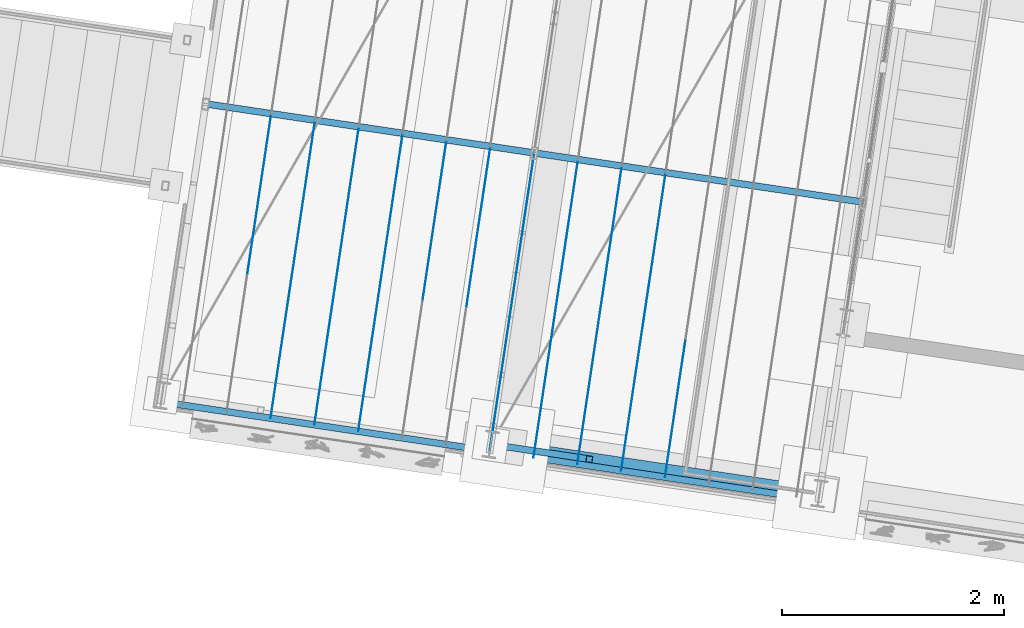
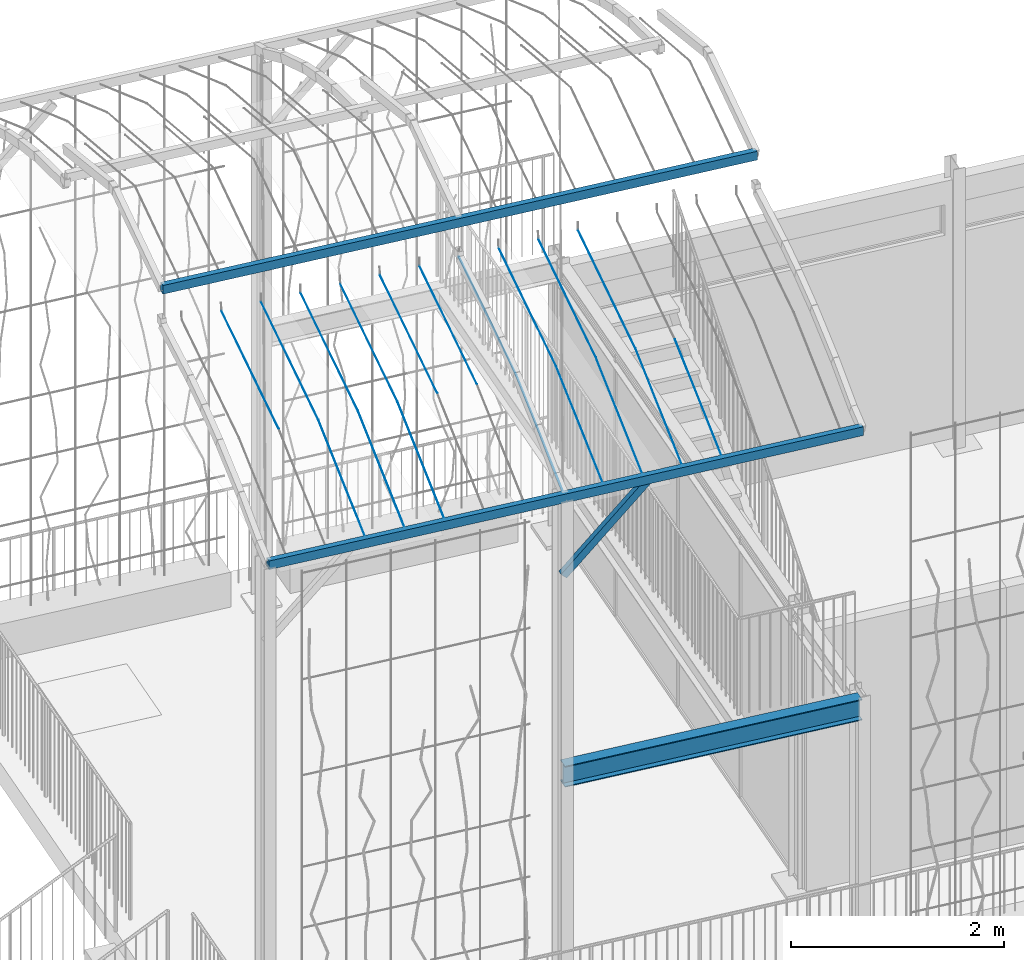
# One storey, part 16 of 142: 19 members, 3 beams, 1 element without a shape of its own.
"""IFC4 building model written with IfcOpenShell, lengths in metres."""

import ifcopenshell
import ifcopenshell.guid

model = None  # the IFC model being written
_history = None  # IfcOwnerHistory: only IFC2X3 demands one
_inside = {}  # id of a spatial element -> (the spatial element, [elements in it])
_under = {}  # id of a project, library or spatial element -> (it, [spatial elements below it])
_declared = {}  # id of a project -> (the project, [libraries it declares])
_typed = {}  # id of a type object -> (the type object, [elements of that type])
_made_of = {}  # id of a material, layer set ... -> (it, [elements and type objects made of it])


def new_model(schema):
    """Start an empty IFC model of exactly this schema.

    Asked for "IFC4X3", IfcOpenShell would pick the latest addendum, in which some entities
    have other attributes; the version numbers below select the first issue.
    IFC2X3 requires an IfcOwnerHistory on every rooted entity: one is made here for all.
    """
    global model, _history
    if schema == "IFC4X3":
        model = ifcopenshell.file(schema_version=(4, 3, 0, 0))
    else:
        model = ifcopenshell.file(schema=schema)
    _inside.clear()
    _under.clear()
    _declared.clear()
    _typed.clear()
    _made_of.clear()
    _history = None
    if model.schema == "IFC2X3":
        org = make("IfcOrganization", Name="unknown")
        user = make(
            "IfcPersonAndOrganization",
            ThePerson=make("IfcPerson", FamilyName="unknown"),
            TheOrganization=org,
        )
        app = make(
            "IfcApplication",
            ApplicationDeveloper=org,
            Version="unknown",
            ApplicationFullName="unknown",
            ApplicationIdentifier="unknown",
        )
        _history = make(
            "IfcOwnerHistory",
            OwningUser=user,
            OwningApplication=app,
            ChangeAction="ADDED",
            CreationDate=0,
        )
    return model


def make(cls, **values):
    """One entity of the class cls with the attributes given. An attribute that is None is left unset."""
    return model.create_entity(
        cls, **{name: value for name, value in values.items() if value is not None}
    )


def rooted(cls, **values):
    """An entity with a GlobalId (a new one), such as an element, a storey or a relation."""
    return make(cls, GlobalId=ifcopenshell.guid.new(), OwnerHistory=_history, **values)


def si_unit(unit_type, name, prefix=None):
    """IfcSIUnit, for example si_unit("LENGTHUNIT", "METRE", prefix="MILLI")."""
    return make("IfcSIUnit", UnitType=unit_type, Prefix=prefix, Name=name)


def assignment(units):
    """IfcUnitAssignment: the units of a project."""
    return None if units is None else make("IfcUnitAssignment", Units=units)


def point(xyz):
    """IfcCartesianPoint."""
    return None if xyz is None else make("IfcCartesianPoint", Coordinates=xyz)


def direction(xyz):
    """IfcDirection."""
    return None if xyz is None else make("IfcDirection", DirectionRatios=xyz)


def frame(location, z_axis=None, x_axis=None):
    """IfcAxis2Placement3D, a coordinate frame: its origin and axes. An axis left out is left unset."""
    return make(
        "IfcAxis2Placement3D",
        Location=point(location),
        Axis=direction(z_axis),
        RefDirection=direction(x_axis),
    )


def origin_with_axes():
    """The frame at (0, 0, 0) with the z axis (0, 0, 1) and the x axis (1, 0, 0) written out."""
    return frame((0.0, 0.0, 0.0), z_axis=(0.0, 0.0, 1.0), x_axis=(1.0, 0.0, 0.0))


def place(relative_to, where):
    """IfcLocalPlacement: puts the frame where relative to a parent placement (None: the world)."""
    return make(
        "IfcLocalPlacement", PlacementRelTo=relative_to, RelativePlacement=where
    )


def context(
    kind, dimensions, precision=None, world=None, true_north=None, identifier=None
):
    """IfcGeometricRepresentationContext, for example the 3D "Model" context."""
    return make(
        "IfcGeometricRepresentationContext",
        ContextIdentifier=identifier,
        ContextType=kind,
        CoordinateSpaceDimension=dimensions,
        Precision=precision,
        WorldCoordinateSystem=world,
        TrueNorth=true_north,
    )


def subcontext(parent, identifier, kind, view, scale=None):
    """IfcGeometricRepresentationSubContext, for example "Body" below "Model"."""
    return make(
        "IfcGeometricRepresentationSubContext",
        ContextIdentifier=identifier,
        ContextType=kind,
        ParentContext=parent,
        TargetScale=scale,
        TargetView=view,
    )


def project(units=None, contexts=None):
    """IfcProject with its units and contexts."""
    return rooted(
        "IfcProject",
        Name="project",
        RepresentationContexts=contexts,
        UnitsInContext=assignment(units),
    )


def spatial(cls, under=None, at=None, **own):
    """A site, building, storey or space (cls), placed at a placement, below another one or the project."""
    s = rooted(cls, ObjectPlacement=at, **own)
    if under is not None:
        _under.setdefault(under.id(), (under, []))[1].append(s)
    return s


def profile(cls, at=None, kind="AREA", **sizes):
    """A parametric profile (cls). Its sizes go by their IFC names, for example OverallWidth=200.0."""
    return make(cls, ProfileType=kind, Position=at, **sizes)


def hollow_rectangle(**sizes):
    """IfcRectangleHollowProfileDef."""
    return profile("IfcRectangleHollowProfileDef", **sizes)


def circle(**sizes):
    """IfcCircleProfileDef."""
    return profile("IfcCircleProfileDef", **sizes)


def i_section(**sizes):
    """IfcIShapeProfileDef."""
    return profile("IfcIShapeProfileDef", **sizes)


def extrude(swept, where, along, depth):
    """IfcExtrudedAreaSolid: the profile swept, set in the frame where, extruded along a direction by depth."""
    return make(
        "IfcExtrudedAreaSolid",
        SweptArea=swept,
        Position=where,
        ExtrudedDirection=direction(along),
        Depth=depth,
    )


def shape(context_of_items, identifier, shape_type, items):
    """IfcShapeRepresentation: the items that make up one representation, for example the "Body"."""
    return make(
        "IfcShapeRepresentation",
        ContextOfItems=context_of_items,
        RepresentationIdentifier=identifier,
        RepresentationType=shape_type,
        Items=items,
    )


def material(Name=None, Category=None):
    """IfcMaterial."""
    return make("IfcMaterial", Name=Name, Category=Category)


def material_profile(
    of_material, cross_section, Name=None, Category=None, Priority=None
):
    """IfcMaterialProfile: a cross section and its material."""
    return make(
        "IfcMaterialProfile",
        Name=Name,
        Material=of_material,
        Profile=cross_section,
        Priority=Priority,
        Category=Category,
    )


def profile_set(profiles, Name=None, composite=None):
    """IfcMaterialProfileSet."""
    return make(
        "IfcMaterialProfileSet",
        Name=Name,
        MaterialProfiles=profiles,
        CompositeProfile=composite,
    )


def profile_usage(for_profile_set, cardinal=None, extent=None):
    """IfcMaterialProfileSetUsage: how a profile set lies along its element."""
    return make(
        "IfcMaterialProfileSetUsage",
        ForProfileSet=for_profile_set,
        CardinalPoint=cardinal,
        ReferenceExtent=extent,
    )


def made_of(thing, what):
    """Note that an element or type object is made of a material, layer set ...; save() writes the relation."""
    if what is not None:
        _made_of.setdefault(what.id(), (what, []))[1].append(thing)
    return thing


def type_object(cls, material=None, **own):
    """A type object (cls), such as IfcWallType, which elements share."""
    return made_of(rooted(cls, **own), material)


def element(
    cls,
    number,
    at=None,
    inside=None,
    cuts=None,
    type_object=None,
    material=None,
    context=None,
    identifier="Body",
    shape_type=None,
    held_by="IfcProductDefinitionShape",
    body=None,
    shapes=None,
    **own,
):
    """One element of the class cls, such as IfcWall. Its Tag is "e" and its number.

    at: its placement. inside: the storey or other place that contains it. cuts: it is an
    opening in that element (IfcRelVoidsElement). A single representation is given by context,
    identifier, shape_type and body (its items); several are given by shapes. held_by: the class
    of the entity that holds the representations. save() writes the other relations.
    """
    e = rooted(cls, Tag="e%d" % number, ObjectPlacement=at, **own)
    if body is not None:
        shapes = [shape(context, identifier, shape_type, body)]
    if shapes is not None:
        e.Representation = make(held_by, Representations=shapes)
    if inside is not None:
        _inside.setdefault(inside.id(), (inside, []))[1].append(e)
    if cuts is not None:
        rooted(
            "IfcRelVoidsElement", RelatingBuildingElement=cuts, RelatedOpeningElement=e
        )
    if type_object is not None:
        _typed.setdefault(type_object.id(), (type_object, []))[1].append(e)
    return made_of(e, material)


def aggregate(whole, parts):
    """IfcRelAggregates: a whole, such as a stair, and the parts it consists of."""
    return rooted("IfcRelAggregates", RelatingObject=whole, RelatedObjects=parts)


def save(model, path):
    """Write the relations noted so far, then the file.

    IfcRelAggregates (storeys below a building ...), IfcRelContainedInSpatialStructure (elements
    in a storey), IfcRelDefinesByType, IfcRelAssociatesMaterial and IfcRelDeclares: one each for
    every whole, place, type object, material and project.
    """
    for whole, parts in _under.values():
        aggregate(whole, parts)
    for where, things in _inside.values():
        rooted(
            "IfcRelContainedInSpatialStructure",
            RelatedElements=things,
            RelatingStructure=where,
        )
    for kind, things in _typed.values():
        rooted("IfcRelDefinesByType", RelatedObjects=things, RelatingType=kind)
    for what, things in _made_of.values():
        rooted("IfcRelAssociatesMaterial", RelatedObjects=things, RelatingMaterial=what)
    for by, libraries in _declared.values():
        rooted("IfcRelDeclares", RelatingContext=by, RelatedDefinitions=libraries)
    model.write(path)


model = new_model("IFC4")

# Units and contexts
model_context = context("Model", 3, precision=1e-05, world=origin_with_axes(), true_north=direction((0.0, 1.0)))
body_context = subcontext(model_context, "Body", "Model", "MODEL_VIEW")
ifc_project = project(units=[si_unit("LENGTHUNIT", "METRE"), si_unit("AREAUNIT", "SQUARE_METRE"), si_unit("VOLUMEUNIT", "CUBIC_METRE")], contexts=[model_context])

# Site, building, storey
site_placement = place(None, origin_with_axes())
site = spatial("IfcSite", under=ifc_project, at=site_placement, Name="Lares · Rua das Mercês · artigo 4771")
building_placement = place(site_placement, frame((15.0, 9.7, 14.65), z_axis=(0.0, 0.0, 1.0), x_axis=(0.989015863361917, -0.147809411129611, 0.0)))
building = spatial("IfcBuilding", under=site, at=building_placement, Name="Casa Sobreposta")
storey_placement = place(building_placement, origin_with_axes())
storey = spatial("IfcBuildingStorey", under=building, at=storey_placement, Name="00 · Habitação e estacionamento", Elevation=14.65)

# Assembly, beams, members
assembly_placement = place(storey_placement, origin_with_axes())
assembly = element("IfcElementAssembly", 1, at=assembly_placement, inside=storey, Name="Pérgola · prolongamento da estufa 6 m", ObjectType="PERGOLA_GREENHOUSE_EXTENSION", PredefinedType="USERDEFINED")
ifc_material_1 = material(Name="Aço pintado / Stahl lackiert", Category="steel")
ifc_material_profile_1 = material_profile(ifc_material_1, i_section(OverallWidth=0.12, OverallDepth=0.24, WebThickness=0.0062, FlangeThickness=0.0098))
ifc_profile_set_1 = profile_set([ifc_material_profile_1], Name="IPE240")
ifc_profile_usage_1 = profile_usage(ifc_profile_set_1)
beam_type_1 = type_object("IfcBeamType", Name="IPE240 / steel", PredefinedType="NOTDEFINED", material=ifc_profile_set_1)
beam_1_placement = place(assembly_placement, frame((-3.0, -1.44, 3.02), z_axis=(1.0, 0.0, 0.0), x_axis=(0.0, -1.0, 0.0)))
beam_1 = element("IfcBeam", 2, at=beam_1_placement, type_object=beam_type_1, material=ifc_profile_usage_1, Name="Varanda · viga de bordo", context=body_context, shape_type="SweptSolid", body=[
    extrude(i_section(OverallWidth=0.12, OverallDepth=0.24, WebThickness=0.0062, FlangeThickness=0.0098), origin_with_axes(), (0.0, 0.0, 1.0), 3.0),
])
ifc_material_profile_2 = material_profile(ifc_material_1, hollow_rectangle(XDim=0.06, YDim=0.1, WallThickness=0.004))
ifc_profile_set_2 = profile_set([ifc_material_profile_2], Name="RHS100x60x4")
ifc_profile_usage_2 = profile_usage(ifc_profile_set_2)
beam_type_2 = type_object("IfcBeamType", Name="RHS100x60x4 / steel", PredefinedType="NOTDEFINED", material=ifc_profile_set_2)
beam_2_placement = place(assembly_placement, frame((-6.0, -1.5, 6.23430000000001), z_axis=(1.0, 0.0, 0.0), x_axis=(0.0, -1.0, 0.0)))
beam_2 = element("IfcBeam", 3, at=beam_2_placement, type_object=beam_type_2, material=ifc_profile_usage_2, Name="Pérgola · terça", context=body_context, shape_type="SweptSolid", body=[
    extrude(hollow_rectangle(XDim=0.06, YDim=0.1, WallThickness=0.004), origin_with_axes(), (0.0, 0.0, 1.0), 6.0),
])
ifc_profile_usage_3 = profile_usage(ifc_profile_set_2)
beam_3_placement = place(assembly_placement, frame((-6.0, 1.22042020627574, 7.62067689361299), z_axis=(1.0, 0.0, 0.0), x_axis=(0.0, -1.0, 0.0)))
beam_3 = element("IfcBeam", 4, at=beam_3_placement, type_object=beam_type_2, material=ifc_profile_usage_3, Name="Pérgola · terça", context=body_context, shape_type="SweptSolid", body=[
    extrude(hollow_rectangle(XDim=0.06, YDim=0.1, WallThickness=0.004), origin_with_axes(), (0.0, 0.0, 1.0), 6.0),
])
ifc_material_profile_3 = material_profile(ifc_material_1, hollow_rectangle(XDim=0.06, YDim=0.08, WallThickness=0.004))
ifc_profile_set_3 = profile_set([ifc_material_profile_3], Name="RHS80x60x4")
ifc_profile_usage_4 = profile_usage(ifc_profile_set_3)
member_type_1 = type_object("IfcMemberType", Name="RHS80x60x4 / steel", PredefinedType="NOTDEFINED", material=ifc_profile_set_3)
member_1_placement = place(assembly_placement, frame((-3.0, -1.44, 5.3), z_axis=(0.699294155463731, 0.0, 0.714834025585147), x_axis=(0.0, -1.0, 0.0)))
member_1 = element("IfcMember", 5, at=member_1_placement, type_object=member_type_1, material=ifc_profile_usage_4, Name="Pérgola · escora alta", context=body_context, shape_type="SweptSolid", body=[
    extrude(hollow_rectangle(XDim=0.06, YDim=0.08, WallThickness=0.004), origin_with_axes(), (0.0, 0.0, 1.0), 1.28701204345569),
])
ifc_material_2 = material(Name="Aço galvanizado / Stahl verzinkt", Category="steel")
ifc_material_profile_4 = material_profile(ifc_material_2, circle(Radius=0.002))
ifc_profile_set_4 = profile_set([ifc_material_profile_4], Name="D0.004")
ifc_profile_usage_5 = profile_usage(ifc_profile_set_4)
member_type_2 = type_object("IfcMemberType", Name="D0.004 / galvanized", PredefinedType="NOTDEFINED", material=ifc_profile_set_4)
member_2_placement = place(assembly_placement, frame((-5.4, -0.256488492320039, 6.81570306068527), z_axis=(0.0, 0.96535496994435, 0.260940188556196), x_axis=(1.0, 0.0, 0.0)))
member_2 = element("IfcMember", 6, at=member_2_placement, type_object=member_type_2, material=ifc_profile_usage_5, Name="Pérgola · fio para trepadeiras", context=body_context, shape_type="SweptSolid", body=[
    extrude(circle(Radius=0.002), origin_with_axes(), (0.0, 0.0, 1.0), 1.52368621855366),
])
ifc_profile_usage_6 = profile_usage(ifc_profile_set_4)
member_3_placement = place(assembly_placement, frame((-5.0, -1.5, 6.23430000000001), z_axis=(0.0, 0.905876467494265, 0.423541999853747), x_axis=(1.0, 0.0, 0.0)))
member_3 = element("IfcMember", 7, at=member_3_placement, type_object=member_type_2, material=ifc_profile_usage_6, Name="Pérgola · fio para trepadeiras", context=body_context, shape_type="SweptSolid", body=[
    extrude(circle(Radius=0.002), origin_with_axes(), (0.0, 0.0, 1.0), 1.37271642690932),
])
ifc_profile_usage_7 = profile_usage(ifc_profile_set_4)
member_4_placement = place(assembly_placement, frame((-5.0, -0.256488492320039, 6.81570306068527), z_axis=(0.0, 0.96535496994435, 0.260940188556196), x_axis=(1.0, 0.0, 0.0)))
member_4 = element("IfcMember", 8, at=member_4_placement, type_object=member_type_2, material=ifc_profile_usage_7, Name="Pérgola · fio para trepadeiras", context=body_context, shape_type="SweptSolid", body=[
    extrude(circle(Radius=0.002), origin_with_axes(), (0.0, 0.0, 1.0), 1.52368621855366),
])
ifc_profile_usage_8 = profile_usage(ifc_profile_set_4)
member_5_placement = place(assembly_placement, frame((-4.6, -1.5, 6.23430000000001), z_axis=(0.0, 0.905876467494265, 0.423541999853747), x_axis=(1.0, 0.0, 0.0)))
member_5 = element("IfcMember", 9, at=member_5_placement, type_object=member_type_2, material=ifc_profile_usage_8, Name="Pérgola · fio para trepadeiras", context=body_context, shape_type="SweptSolid", body=[
    extrude(circle(Radius=0.002), origin_with_axes(), (0.0, 0.0, 1.0), 1.37271642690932),
])
ifc_profile_usage_9 = profile_usage(ifc_profile_set_4)
member_6_placement = place(assembly_placement, frame((-4.6, -0.256488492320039, 6.81570306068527), z_axis=(0.0, 0.96535496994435, 0.260940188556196), x_axis=(1.0, 0.0, 0.0)))
member_6 = element("IfcMember", 10, at=member_6_placement, type_object=member_type_2, material=ifc_profile_usage_9, Name="Pérgola · fio para trepadeiras", context=body_context, shape_type="SweptSolid", body=[
    extrude(circle(Radius=0.002), origin_with_axes(), (0.0, 0.0, 1.0), 1.52368621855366),
])
ifc_profile_usage_10 = profile_usage(ifc_profile_set_4)
member_7_placement = place(assembly_placement, frame((-4.2, -1.5, 6.23430000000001), z_axis=(0.0, 0.905876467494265, 0.423541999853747), x_axis=(1.0, 0.0, 0.0)))
member_7 = element("IfcMember", 11, at=member_7_placement, type_object=member_type_2, material=ifc_profile_usage_10, Name="Pérgola · fio para trepadeiras", context=body_context, shape_type="SweptSolid", body=[
    extrude(circle(Radius=0.002), origin_with_axes(), (0.0, 0.0, 1.0), 1.37271642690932),
])
ifc_profile_usage_11 = profile_usage(ifc_profile_set_4)
member_8_placement = place(assembly_placement, frame((-4.2, -0.256488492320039, 6.81570306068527), z_axis=(0.0, 0.96535496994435, 0.260940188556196), x_axis=(1.0, 0.0, 0.0)))
member_8 = element("IfcMember", 12, at=member_8_placement, type_object=member_type_2, material=ifc_profile_usage_11, Name="Pérgola · fio para trepadeiras", context=body_context, shape_type="SweptSolid", body=[
    extrude(circle(Radius=0.002), origin_with_axes(), (0.0, 0.0, 1.0), 1.52368621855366),
])
ifc_profile_usage_12 = profile_usage(ifc_profile_set_4)
member_9_placement = place(assembly_placement, frame((-3.8, -0.256488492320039, 6.81570306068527), z_axis=(0.0, 0.96535496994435, 0.260940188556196), x_axis=(1.0, 0.0, 0.0)))
member_9 = element("IfcMember", 13, at=member_9_placement, type_object=member_type_2, material=ifc_profile_usage_12, Name="Pérgola · fio para trepadeiras", context=body_context, shape_type="SweptSolid", body=[
    extrude(circle(Radius=0.002), origin_with_axes(), (0.0, 0.0, 1.0), 1.52368621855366),
])
ifc_profile_usage_13 = profile_usage(ifc_profile_set_4)
member_10_placement = place(assembly_placement, frame((-3.4, -0.256488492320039, 6.81570306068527), z_axis=(0.0, 0.96535496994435, 0.260940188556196), x_axis=(1.0, 0.0, 0.0)))
member_10 = element("IfcMember", 14, at=member_10_placement, type_object=member_type_2, material=ifc_profile_usage_13, Name="Pérgola · fio para trepadeiras", context=body_context, shape_type="SweptSolid", body=[
    extrude(circle(Radius=0.002), origin_with_axes(), (0.0, 0.0, 1.0), 1.52368621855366),
])
ifc_profile_usage_14 = profile_usage(ifc_profile_set_4)
member_11_placement = place(assembly_placement, frame((-3.0, -1.5, 6.23430000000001), z_axis=(0.0, 0.905876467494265, 0.423541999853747), x_axis=(1.0, 0.0, 0.0)))
member_11 = element("IfcMember", 15, at=member_11_placement, type_object=member_type_2, material=ifc_profile_usage_14, Name="Pérgola · fio para trepadeiras", context=body_context, shape_type="SweptSolid", body=[
    extrude(circle(Radius=0.002), origin_with_axes(), (0.0, 0.0, 1.0), 1.37271642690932),
])
ifc_profile_usage_15 = profile_usage(ifc_profile_set_4)
member_12_placement = place(assembly_placement, frame((-3.0, -0.256488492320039, 6.81570306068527), z_axis=(0.0, 0.96535496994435, 0.260940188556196), x_axis=(1.0, 0.0, 0.0)))
member_12 = element("IfcMember", 16, at=member_12_placement, type_object=member_type_2, material=ifc_profile_usage_15, Name="Pérgola · fio para trepadeiras", context=body_context, shape_type="SweptSolid", body=[
    extrude(circle(Radius=0.002), origin_with_axes(), (0.0, 0.0, 1.0), 1.52368621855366),
])
ifc_profile_usage_16 = profile_usage(ifc_profile_set_4)
member_13_placement = place(assembly_placement, frame((-2.6, -1.5, 6.23430000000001), z_axis=(0.0, 0.905876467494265, 0.423541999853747), x_axis=(1.0, 0.0, 0.0)))
member_13 = element("IfcMember", 17, at=member_13_placement, type_object=member_type_2, material=ifc_profile_usage_16, Name="Pérgola · fio para trepadeiras", context=body_context, shape_type="SweptSolid", body=[
    extrude(circle(Radius=0.002), origin_with_axes(), (0.0, 0.0, 1.0), 1.37271642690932),
])
ifc_profile_usage_17 = profile_usage(ifc_profile_set_4)
member_14_placement = place(assembly_placement, frame((-2.6, -0.256488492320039, 6.81570306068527), z_axis=(0.0, 0.96535496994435, 0.260940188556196), x_axis=(1.0, 0.0, 0.0)))
member_14 = element("IfcMember", 18, at=member_14_placement, type_object=member_type_2, material=ifc_profile_usage_17, Name="Pérgola · fio para trepadeiras", context=body_context, shape_type="SweptSolid", body=[
    extrude(circle(Radius=0.002), origin_with_axes(), (0.0, 0.0, 1.0), 1.52368621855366),
])
ifc_profile_usage_18 = profile_usage(ifc_profile_set_4)
member_15_placement = place(assembly_placement, frame((-2.2, -1.5, 6.23430000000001), z_axis=(0.0, 0.905876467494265, 0.423541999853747), x_axis=(1.0, 0.0, 0.0)))
member_15 = element("IfcMember", 19, at=member_15_placement, type_object=member_type_2, material=ifc_profile_usage_18, Name="Pérgola · fio para trepadeiras", context=body_context, shape_type="SweptSolid", body=[
    extrude(circle(Radius=0.002), origin_with_axes(), (0.0, 0.0, 1.0), 1.37271642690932),
])
ifc_profile_usage_19 = profile_usage(ifc_profile_set_4)
member_16_placement = place(assembly_placement, frame((-2.2, -0.256488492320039, 6.81570306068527), z_axis=(0.0, 0.96535496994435, 0.260940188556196), x_axis=(1.0, 0.0, 0.0)))
member_16 = element("IfcMember", 20, at=member_16_placement, type_object=member_type_2, material=ifc_profile_usage_19, Name="Pérgola · fio para trepadeiras", context=body_context, shape_type="SweptSolid", body=[
    extrude(circle(Radius=0.002), origin_with_axes(), (0.0, 0.0, 1.0), 1.52368621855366),
])
ifc_profile_usage_20 = profile_usage(ifc_profile_set_4)
member_17_placement = place(assembly_placement, frame((-1.8, -1.5, 6.23430000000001), z_axis=(0.0, 0.905876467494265, 0.423541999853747), x_axis=(1.0, 0.0, 0.0)))
member_17 = element("IfcMember", 21, at=member_17_placement, type_object=member_type_2, material=ifc_profile_usage_20, Name="Pérgola · fio para trepadeiras", context=body_context, shape_type="SweptSolid", body=[
    extrude(circle(Radius=0.002), origin_with_axes(), (0.0, 0.0, 1.0), 1.37271642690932),
])
ifc_profile_usage_21 = profile_usage(ifc_profile_set_4)
member_18_placement = place(assembly_placement, frame((-1.8, -0.256488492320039, 6.81570306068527), z_axis=(0.0, 0.96535496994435, 0.260940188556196), x_axis=(1.0, 0.0, 0.0)))
member_18 = element("IfcMember", 22, at=member_18_placement, type_object=member_type_2, material=ifc_profile_usage_21, Name="Pérgola · fio para trepadeiras", context=body_context, shape_type="SweptSolid", body=[
    extrude(circle(Radius=0.002), origin_with_axes(), (0.0, 0.0, 1.0), 1.52368621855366),
])
ifc_profile_usage_22 = profile_usage(ifc_profile_set_4)
member_19_placement = place(assembly_placement, frame((-1.4, -1.5, 6.23430000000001), z_axis=(0.0, 0.905876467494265, 0.423541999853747), x_axis=(1.0, 0.0, 0.0)))
member_19 = element("IfcMember", 23, at=member_19_placement, type_object=member_type_2, material=ifc_profile_usage_22, Name="Pérgola · fio para trepadeiras", context=body_context, shape_type="SweptSolid", body=[
    extrude(circle(Radius=0.002), origin_with_axes(), (0.0, 0.0, 1.0), 1.37271642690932),
])
aggregate(assembly, [beam_2, beam_3, member_1, member_2, member_3, member_4, member_5, member_6, member_7, member_8, member_9, member_10, member_11, member_12, member_13, member_14, member_15, member_16, member_17, member_18, member_19, beam_1])

save(model, "model.ifc")
